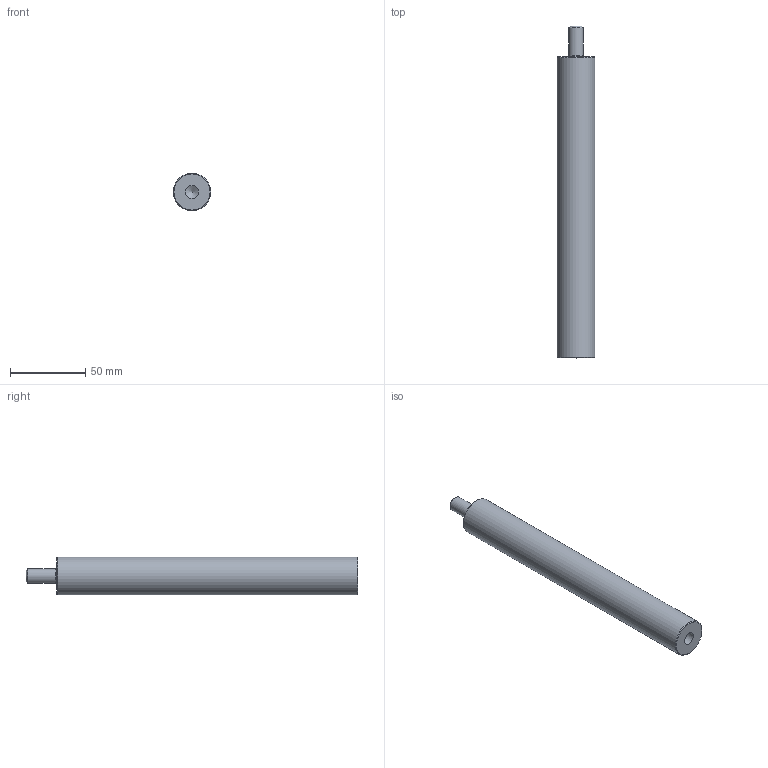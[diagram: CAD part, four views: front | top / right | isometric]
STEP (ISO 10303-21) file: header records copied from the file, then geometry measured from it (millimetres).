
FILE_DESCRIPTION(/* description */ (''),/* implementation_level */ '2;1');
FILE_NAME(/* name */ 'BM12-25D-200L.step',/* time_stamp */ '2023-10-24T14:07:51+09:00',/* author */ (''),/* organization */ (''),/* preprocessor_version */ 'ST-DEVELOPER v20',/* originating_system */ 'Autodesk Translation Framework v12.14.0.127',/* authorisation */ '');
FILE_SCHEMA (('AUTOMOTIVE_DESIGN { 1 0 10303 214 3 1 1 }'));
Length unit declared in the file: millimetre
Products named in the file (1): BM12-25D-200L
Bounding box: 25 x 220.5 x 25 mm (x, y, z)
Volume: 98804.9 mm3; surface area: 17656.4 mm2
Topology: 1 solids, 1 shells, 11 faces, 20 edges, 12 vertices
Faces by surface type: cone 4, cylinder 3, plane 3, torus 1
Full cylindrical faces by diameter (mm): 8.526 x1, 9.85 x1, 25 x1
Entity records: 309 total; most frequent: DIRECTION 55, CARTESIAN_POINT 43, ORIENTED_EDGE 38, AXIS2_PLACEMENT_3D 24, EDGE_CURVE 19, EDGE_LOOP 13, CIRCLE 12, VERTEX_POINT 12
